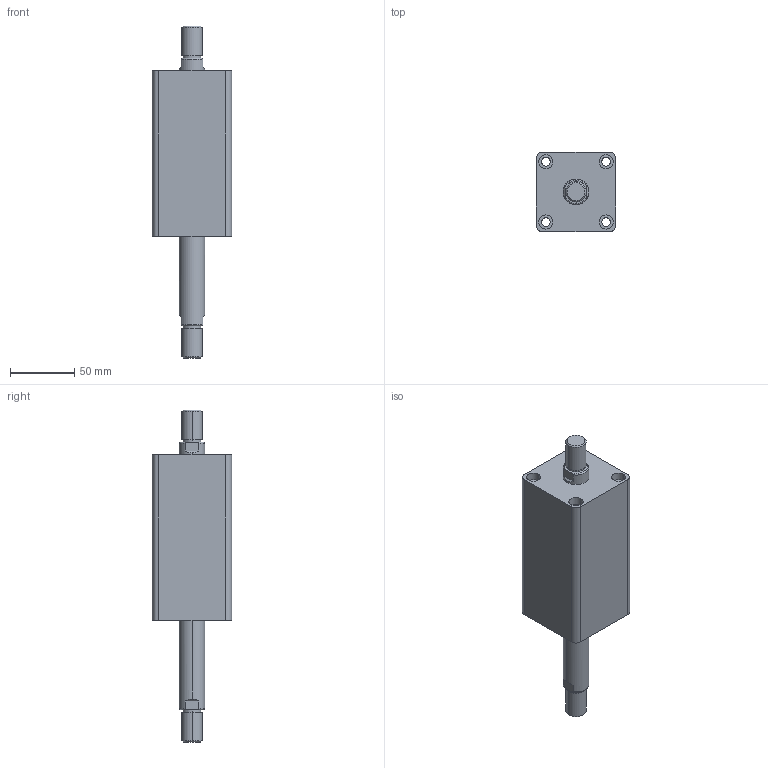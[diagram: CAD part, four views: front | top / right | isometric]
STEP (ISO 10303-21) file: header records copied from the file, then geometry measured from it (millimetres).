
FILE_DESCRIPTION (( 'STEP AP203' ), '1' );
FILE_NAME ('HTB-SW32-60W.STEP', '2019-10-07T08:55:27', ( '微软用户' ), ( '微软中国' ), 'SwSTEP 2.0', 'SolidWorks 2012', '' );
FILE_SCHEMA (( 'CONFIG_CONTROL_DESIGN' ));
Length unit declared in the file: millimetre
Products named in the file (3): HTB-SW32-60W; HTB-SW32-60W活塞杆; HTB-SW32-60掛极
Assembly tree (2 placements, depth 2):
  HTB-SW32-60W
    HTB-SW32-60掛极
    HTB-SW32-60W活塞杆
Bounding box: 62 x 62 x 259 mm (x, y, z)
Volume: 474314.5 mm3; surface area: 79948.2 mm2
Topology: 2 solids, 2 shells, 108 faces, 240 edges, 156 vertices
Faces by surface type: cylinder 52, plane 36, torus 12, cone 8
Entity records: 3449 total; most frequent: CARTESIAN_POINT 629, DIRECTION 586, ORIENTED_EDGE 480, AXIS2_PLACEMENT_3D 249, EDGE_CURVE 240, VERTEX_POINT 156, EDGE_LOOP 138, CIRCLE 136
